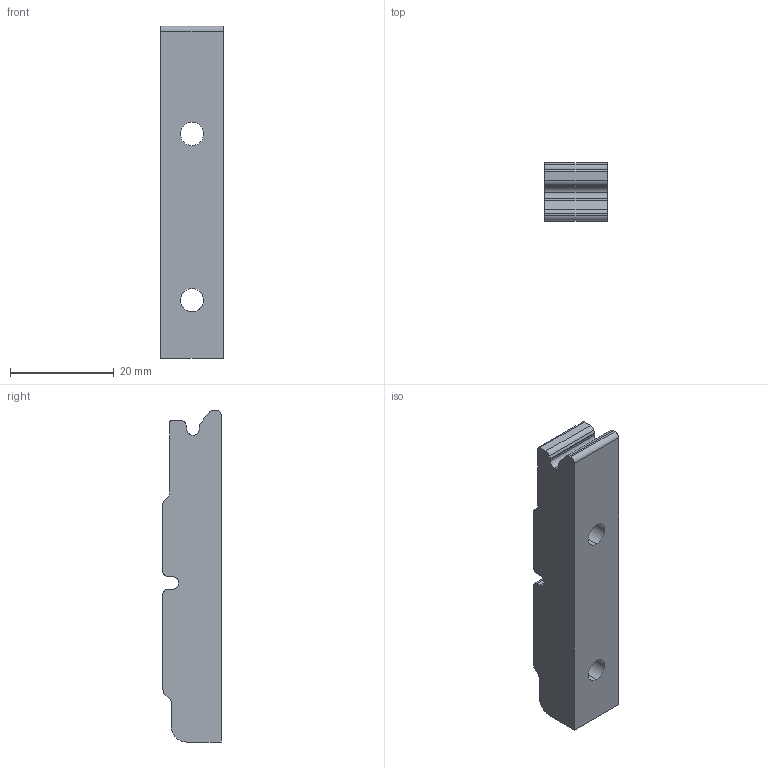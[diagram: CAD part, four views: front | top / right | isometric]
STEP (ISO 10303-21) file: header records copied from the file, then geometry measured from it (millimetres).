
FILE_DESCRIPTION (( 'STEP AP214' ), '1' );
FILE_NAME ('ST00YQ.STEP', '2021-04-10T02:39:12', ( 'Windows 蚚誧' ), ( '' ), 'SwSTEP 2.0', 'SolidWorks 2018', '' );
FILE_SCHEMA (( 'AUTOMOTIVE_DESIGN' ));
Length unit declared in the file: millimetre
Products named in the file (1): ST00YQ
Bounding box: 12.1 x 11.21 x 63.91 mm (x, y, z)
Volume: 7503.8 mm3; surface area: 3404.3 mm2
Topology: 1 solids, 1 shells, 36 faces, 105 edges, 70 vertices
Faces by surface type: cylinder 20, plane 16
Entity records: 1621 total; most frequent: CARTESIAN_POINT 234, DIRECTION 217, ORIENTED_EDGE 210, EDGE_CURVE 105, AXIS2_PLACEMENT_3D 77, VERTEX_POINT 70, VECTOR 63, LINE 63
